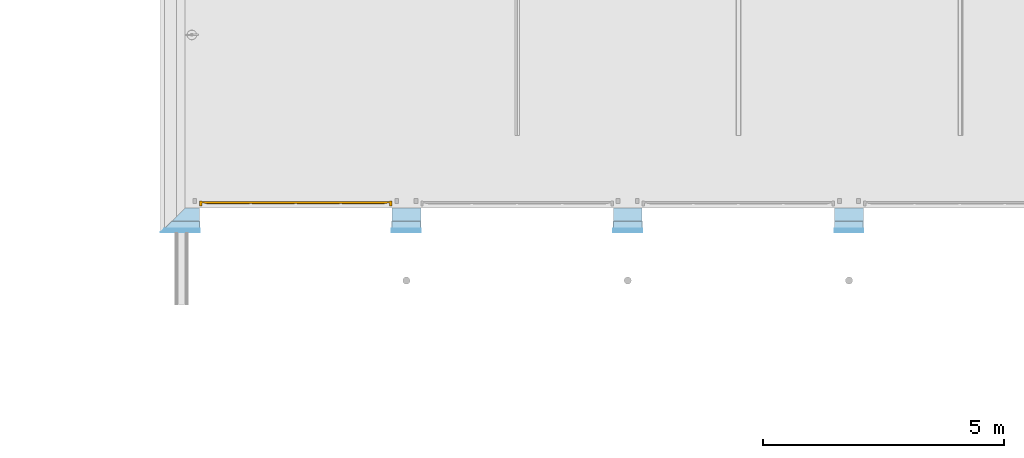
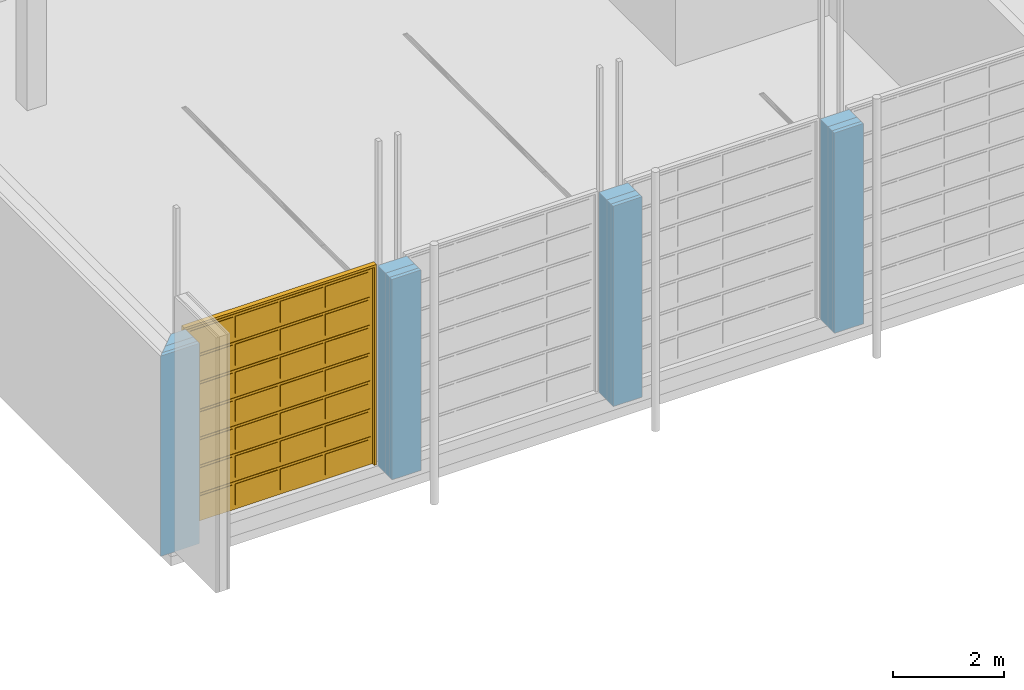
# One storey, part 24 of 112: 1 door, 4 openings, 1 element without a shape of its own, plus 3 elements that do not belong to this part.
"""IFC2X3 building model written with IfcOpenShell, lengths in millimetres."""

from ifc_helpers import new_model, entity, si_unit, converted_unit, derived_unit, money_unit, direction, frame, origin_with_axes, origin_2d_with_axis, place, context, subcontext, project, spatial, polyline, rectangle, outline, extrude, faceted_brep, source, transform, mapped, material, type_object, element, fill, aggregate, save


model = new_model("IFC2X3")

# Units and contexts
model_context = context("Model", 3, precision=0.01, world=origin_with_axes(), true_north=direction((0.0, 1.0)))
body_context = subcontext(model_context, "Body", "Model", "MODEL_VIEW")
ifc_project = project(units=[si_unit("LENGTHUNIT", "METRE", prefix="MILLI"), si_unit("AREAUNIT", "SQUARE_METRE"), si_unit("VOLUMEUNIT", "CUBIC_METRE"), converted_unit("PLANEANGLEUNIT", "DEGREE", entity("IfcPlaneAngleMeasure", 0.0174532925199), si_unit("PLANEANGLEUNIT", "RADIAN"), dimensions=[0, 0, 0, 0, 0, 0, 0]), si_unit("SOLIDANGLEUNIT", "STERADIAN"), money_unit("EUR"), converted_unit("TIMEUNIT", "Year", entity("IfcTimeMeasure", 31556926.0), si_unit("TIMEUNIT", "SECOND"), dimensions=[0, 0, 1, 0, 0, 0, 0]), si_unit("MASSUNIT", "GRAM", prefix="KILO"), si_unit("THERMODYNAMICTEMPERATUREUNIT", "DEGREE_CELSIUS"), si_unit("LUMINOUSINTENSITYUNIT", "LUMEN"), si_unit("ENERGYUNIT", "JOULE", prefix="MEGA"), derived_unit("THERMALCONDUCTANCEUNIT", [(si_unit("POWERUNIT", "WATT"), 1), (si_unit("LENGTHUNIT", "METRE"), -1), (si_unit("THERMODYNAMICTEMPERATUREUNIT", "KELVIN"), -1)]), derived_unit("SPECIFICHEATCAPACITYUNIT", [(si_unit("ENERGYUNIT", "JOULE"), 1), (si_unit("MASSUNIT", "GRAM", prefix="KILO"), -1), (si_unit("THERMODYNAMICTEMPERATUREUNIT", "KELVIN"), -1)]), derived_unit("MASSDENSITYUNIT", [(si_unit("MASSUNIT", "GRAM", prefix="KILO"), 1), (si_unit("VOLUMEUNIT", "CUBIC_METRE"), -1)])], contexts=[model_context])

# Site, building, storey
site_placement = place(None, origin_with_axes())
site = spatial("IfcSite", under=ifc_project, at=site_placement, Name="Politse- ja Piirivalveameti ning Päästeameti ühishoone", CompositionType="ELEMENT")
building_placement = place(site_placement, origin_with_axes())
building = spatial("IfcBuilding", under=site, at=building_placement, Name="Politse- ja Piirivalveameti ning Päästeameti ühishoone", CompositionType="ELEMENT")
storey_placement = place(building_placement, origin_with_axes())
storey = spatial("IfcBuildingStorey", under=building, at=storey_placement, Name="Esimene korrus", CompositionType="ELEMENT", Elevation=0.0)

# Door
door_style = type_object("IfcDoorStyle", Name="Vertical Sliding Garage Door 23", ConstructionType="NOTDEFINED", OperationType="ROLLINGUP", ParameterTakesPrecedence=False, Sizeable=False)
shared_shape = source(origin_with_axes(), body_context, "Body", "Brep", [
    faceted_brep([(-2000.0, 0.0, 0.0), (-1950.0, 0.0, 0.0), (-1950.0, -100.0, 0.0), (-2000.0, -100.0, 0.0), (-2000.0, 0.0, 4350.0), (-1950.0, 0.0, 4350.0), (-1950.0, -100.0, 4350.0), (-2000.0, -100.0, 4350.0)], [[[0, 1, 2, 3]], [[0, 4, 5, 1]], [[1, 5, 6, 2]], [[3, 2, 6, 7]], [[4, 0, 3, 7]], [[5, 4, 7, 6]]]),
    faceted_brep([(2000.0, 0.0, 0.0), (2000.0, 0.0, 4350.0), (2000.0, -100.0, 4350.0), (2000.0, -100.0, 0.0), (1950.0, 0.0, 0.0), (1950.0, 0.0, 4350.0), (1950.0, -100.0, 4350.0), (1950.0, -100.0, 0.0)], [[[0, 1, 2, 3]], [[0, 4, 5, 1]], [[1, 5, 6, 2]], [[3, 2, 6, 7]], [[4, 0, 3, 7]], [[5, 4, 7, 6]]]),
    faceted_brep([(-2000.0, 0.0, 4400.0), (-2000.0, 0.0, 4350.0), (-2000.0, -100.0, 4350.0), (-2000.0, -100.0, 4400.0), (2000.0, 0.0, 4400.0), (2000.0, 0.0, 4350.0), (1950.0, 0.0, 4350.0), (-1950.0, 0.0, 4350.0), (-1950.0, -100.0, 4350.0), (1950.0, -100.0, 4350.0), (2000.0, -100.0, 4350.0), (2000.0, -100.0, 4400.0)], [[[0, 1, 2, 3]], [[0, 4, 5, 6, 7, 1]], [[1, 7, 8, 2]], [[3, 2, 8, 9, 10, 11]], [[4, 0, 3, 11]], [[5, 4, 11, 10]], [[6, 5, 10, 9]], [[7, 6, 9, 8]]]),
    faceted_brep([(1950.0, -5.5, 0.0), (1950.0, -35.5, 0.0), (-1950.0, -35.5, 0.0), (-1950.0, -5.5, 0.0), (1950.0, -5.5, 4350.0), (1950.0, -35.5, 4350.0), (-1950.0, -35.5, 4350.0), (-1950.0, -5.5, 4350.0)], [[[0, 1, 2, 3]], [[4, 5, 1, 0]], [[1, 5, 6, 2]], [[3, 2, 6, 7]], [[0, 3, 7, 4]], [[7, 6, 5, 4]]]),
    faceted_brep([(-1900.0, -35.5, 50.0), (-1900.0, -35.5, 614.285714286), (1900.0, -35.5, 614.285714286), (1900.0, -35.5, 50.0), (-1900.0, -45.5, 50.0), (-1900.0, -45.5, 614.285714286), (1900.0, -45.5, 614.285714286), (1900.0, -45.5, 50.0)], [[[0, 1, 2, 3]], [[0, 4, 5, 1]], [[1, 5, 6, 2]], [[2, 6, 7, 3]], [[3, 7, 4, 0]], [[7, 6, 5, 4]]]),
    faceted_brep([(962.5, -45.5, 100.0), (962.5, -45.5, 564.285714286), (1850.0, -45.5, 564.285714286), (1850.0, -45.5, 100.0), (962.5, -55.5, 100.0), (962.5, -55.5, 564.285714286), (1850.0, -55.5, 564.285714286), (1850.0, -55.5, 100.0)], [[[0, 1, 2, 3]], [[0, 4, 5, 1]], [[1, 5, 6, 2]], [[2, 6, 7, 3]], [[3, 7, 4, 0]], [[7, 6, 5, 4]]]),
    faceted_brep([(25.0, -45.5, 100.0), (25.0, -45.5, 564.285714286), (912.5, -45.5, 564.285714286), (912.5, -45.5, 100.0), (25.0, -55.5, 100.0), (25.0, -55.5, 564.285714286), (912.5, -55.5, 564.285714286), (912.5, -55.5, 100.0)], [[[0, 1, 2, 3]], [[0, 4, 5, 1]], [[1, 5, 6, 2]], [[2, 6, 7, 3]], [[3, 7, 4, 0]], [[7, 6, 5, 4]]]),
    faceted_brep([(-912.5, -45.5, 100.0), (-912.5, -45.5, 564.285714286), (-25.0, -45.5, 564.285714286), (-25.0, -45.5, 100.0), (-912.5, -55.5, 100.0), (-912.5, -55.5, 564.285714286), (-25.0, -55.5, 564.285714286), (-25.0, -55.5, 100.0)], [[[0, 1, 2, 3]], [[0, 4, 5, 1]], [[1, 5, 6, 2]], [[2, 6, 7, 3]], [[3, 7, 4, 0]], [[7, 6, 5, 4]]]),
    faceted_brep([(-1850.0, -45.5, 100.0), (-1850.0, -45.5, 564.285714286), (-962.5, -45.5, 564.285714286), (-962.5, -45.5, 100.0), (-1850.0, -55.5, 100.0), (-1850.0, -55.5, 564.285714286), (-962.5, -55.5, 564.285714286), (-962.5, -55.5, 100.0)], [[[0, 1, 2, 3]], [[0, 4, 5, 1]], [[1, 5, 6, 2]], [[2, 6, 7, 3]], [[3, 7, 4, 0]], [[7, 6, 5, 4]]]),
    faceted_brep([(-1900.0, -35.5, 664.285714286), (-1900.0, -35.5, 1228.57142857), (1900.0, -35.5, 1228.57142857), (1900.0, -35.5, 664.285714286), (-1900.0, -45.5, 664.285714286), (-1900.0, -45.5, 1228.57142857), (1900.0, -45.5, 1228.57142857), (1900.0, -45.5, 664.285714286)], [[[0, 1, 2, 3]], [[0, 4, 5, 1]], [[1, 5, 6, 2]], [[2, 6, 7, 3]], [[3, 7, 4, 0]], [[7, 6, 5, 4]]]),
    faceted_brep([(962.5, -45.5, 714.285714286), (962.5, -45.5, 1178.57142857), (1850.0, -45.5, 1178.57142857), (1850.0, -45.5, 714.285714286), (962.5, -55.5, 714.285714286), (962.5, -55.5, 1178.57142857), (1850.0, -55.5, 1178.57142857), (1850.0, -55.5, 714.285714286)], [[[0, 1, 2, 3]], [[0, 4, 5, 1]], [[1, 5, 6, 2]], [[2, 6, 7, 3]], [[3, 7, 4, 0]], [[7, 6, 5, 4]]]),
    faceted_brep([(25.0, -45.5, 714.285714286), (25.0, -45.5, 1178.57142857), (912.5, -45.5, 1178.57142857), (912.5, -45.5, 714.285714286), (25.0, -55.5, 714.285714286), (25.0, -55.5, 1178.57142857), (912.5, -55.5, 1178.57142857), (912.5, -55.5, 714.285714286)], [[[0, 1, 2, 3]], [[0, 4, 5, 1]], [[1, 5, 6, 2]], [[2, 6, 7, 3]], [[3, 7, 4, 0]], [[7, 6, 5, 4]]]),
    faceted_brep([(-912.5, -45.5, 714.285714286), (-912.5, -45.5, 1178.57142857), (-25.0, -45.5, 1178.57142857), (-25.0, -45.5, 714.285714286), (-912.5, -55.5, 714.285714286), (-912.5, -55.5, 1178.57142857), (-25.0, -55.5, 1178.57142857), (-25.0, -55.5, 714.285714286)], [[[0, 1, 2, 3]], [[0, 4, 5, 1]], [[1, 5, 6, 2]], [[2, 6, 7, 3]], [[3, 7, 4, 0]], [[7, 6, 5, 4]]]),
    faceted_brep([(-1850.0, -45.5, 714.285714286), (-1850.0, -45.5, 1178.57142857), (-962.5, -45.5, 1178.57142857), (-962.5, -45.5, 714.285714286), (-1850.0, -55.5, 714.285714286), (-1850.0, -55.5, 1178.57142857), (-962.5, -55.5, 1178.57142857), (-962.5, -55.5, 714.285714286)], [[[0, 1, 2, 3]], [[0, 4, 5, 1]], [[1, 5, 6, 2]], [[2, 6, 7, 3]], [[3, 7, 4, 0]], [[7, 6, 5, 4]]]),
    faceted_brep([(-1900.0, -35.5, 1278.57142857), (-1900.0, -35.5, 1842.85714286), (1900.0, -35.5, 1842.85714286), (1900.0, -35.5, 1278.57142857), (-1900.0, -45.5, 1278.57142857), (-1900.0, -45.5, 1842.85714286), (1900.0, -45.5, 1842.85714286), (1900.0, -45.5, 1278.57142857)], [[[0, 1, 2, 3]], [[0, 4, 5, 1]], [[1, 5, 6, 2]], [[2, 6, 7, 3]], [[3, 7, 4, 0]], [[7, 6, 5, 4]]]),
    faceted_brep([(962.5, -45.5, 1328.57142857), (962.5, -45.5, 1792.85714286), (1850.0, -45.5, 1792.85714286), (1850.0, -45.5, 1328.57142857), (962.5, -55.5, 1328.57142857), (962.5, -55.5, 1792.85714286), (1850.0, -55.5, 1792.85714286), (1850.0, -55.5, 1328.57142857)], [[[0, 1, 2, 3]], [[0, 4, 5, 1]], [[1, 5, 6, 2]], [[2, 6, 7, 3]], [[3, 7, 4, 0]], [[7, 6, 5, 4]]]),
    faceted_brep([(25.0, -45.5, 1328.57142857), (25.0, -45.5, 1792.85714286), (912.5, -45.5, 1792.85714286), (912.5, -45.5, 1328.57142857), (25.0, -55.5, 1328.57142857), (25.0, -55.5, 1792.85714286), (912.5, -55.5, 1792.85714286), (912.5, -55.5, 1328.57142857)], [[[0, 1, 2, 3]], [[0, 4, 5, 1]], [[1, 5, 6, 2]], [[2, 6, 7, 3]], [[3, 7, 4, 0]], [[7, 6, 5, 4]]]),
    faceted_brep([(-912.5, -45.5, 1328.57142857), (-912.5, -45.5, 1792.85714286), (-25.0, -45.5, 1792.85714286), (-25.0, -45.5, 1328.57142857), (-912.5, -55.5, 1328.57142857), (-912.5, -55.5, 1792.85714286), (-25.0, -55.5, 1792.85714286), (-25.0, -55.5, 1328.57142857)], [[[0, 1, 2, 3]], [[0, 4, 5, 1]], [[1, 5, 6, 2]], [[2, 6, 7, 3]], [[3, 7, 4, 0]], [[7, 6, 5, 4]]]),
    faceted_brep([(-1850.0, -45.5, 1328.57142857), (-1850.0, -45.5, 1792.85714286), (-962.5, -45.5, 1792.85714286), (-962.5, -45.5, 1328.57142857), (-1850.0, -55.5, 1328.57142857), (-1850.0, -55.5, 1792.85714286), (-962.5, -55.5, 1792.85714286), (-962.5, -55.5, 1328.57142857)], [[[0, 1, 2, 3]], [[0, 4, 5, 1]], [[1, 5, 6, 2]], [[2, 6, 7, 3]], [[3, 7, 4, 0]], [[7, 6, 5, 4]]]),
    faceted_brep([(-1900.0, -35.5, 1892.85714286), (-1900.0, -35.5, 2457.14285714), (1900.0, -35.5, 2457.14285714), (1900.0, -35.5, 1892.85714286), (-1900.0, -45.5, 1892.85714286), (-1900.0, -45.5, 2457.14285714), (1900.0, -45.5, 2457.14285714), (1900.0, -45.5, 1892.85714286)], [[[0, 1, 2, 3]], [[0, 4, 5, 1]], [[1, 5, 6, 2]], [[2, 6, 7, 3]], [[3, 7, 4, 0]], [[7, 6, 5, 4]]]),
    faceted_brep([(962.5, -45.5, 1942.85714286), (962.5, -45.5, 2407.14285714), (1850.0, -45.5, 2407.14285714), (1850.0, -45.5, 1942.85714286), (962.5, -55.5, 1942.85714286), (962.5, -55.5, 2407.14285714), (1850.0, -55.5, 2407.14285714), (1850.0, -55.5, 1942.85714286)], [[[0, 1, 2, 3]], [[0, 4, 5, 1]], [[1, 5, 6, 2]], [[2, 6, 7, 3]], [[3, 7, 4, 0]], [[7, 6, 5, 4]]]),
    faceted_brep([(25.0, -45.5, 1942.85714286), (25.0, -45.5, 2407.14285714), (912.5, -45.5, 2407.14285714), (912.5, -45.5, 1942.85714286), (25.0, -55.5, 1942.85714286), (25.0, -55.5, 2407.14285714), (912.5, -55.5, 2407.14285714), (912.5, -55.5, 1942.85714286)], [[[0, 1, 2, 3]], [[0, 4, 5, 1]], [[1, 5, 6, 2]], [[2, 6, 7, 3]], [[3, 7, 4, 0]], [[7, 6, 5, 4]]]),
    faceted_brep([(-912.5, -45.5, 1942.85714286), (-912.5, -45.5, 2407.14285714), (-25.0, -45.5, 2407.14285714), (-25.0, -45.5, 1942.85714286), (-912.5, -55.5, 1942.85714286), (-912.5, -55.5, 2407.14285714), (-25.0, -55.5, 2407.14285714), (-25.0, -55.5, 1942.85714286)], [[[0, 1, 2, 3]], [[0, 4, 5, 1]], [[1, 5, 6, 2]], [[2, 6, 7, 3]], [[3, 7, 4, 0]], [[7, 6, 5, 4]]]),
    faceted_brep([(-1850.0, -45.5, 1942.85714286), (-1850.0, -45.5, 2407.14285714), (-962.5, -45.5, 2407.14285714), (-962.5, -45.5, 1942.85714286), (-1850.0, -55.5, 1942.85714286), (-1850.0, -55.5, 2407.14285714), (-962.5, -55.5, 2407.14285714), (-962.5, -55.5, 1942.85714286)], [[[0, 1, 2, 3]], [[0, 4, 5, 1]], [[1, 5, 6, 2]], [[2, 6, 7, 3]], [[3, 7, 4, 0]], [[7, 6, 5, 4]]]),
    faceted_brep([(-1900.0, -35.5, 2507.14285714), (-1900.0, -35.5, 3071.42857143), (1900.0, -35.5, 3071.42857143), (1900.0, -35.5, 2507.14285714), (-1900.0, -45.5, 2507.14285714), (-1900.0, -45.5, 3071.42857143), (1900.0, -45.5, 3071.42857143), (1900.0, -45.5, 2507.14285714)], [[[0, 1, 2, 3]], [[0, 4, 5, 1]], [[1, 5, 6, 2]], [[2, 6, 7, 3]], [[3, 7, 4, 0]], [[7, 6, 5, 4]]]),
    faceted_brep([(962.5, -45.5, 2557.14285714), (962.5, -45.5, 3021.42857143), (1850.0, -45.5, 3021.42857143), (1850.0, -45.5, 2557.14285714), (962.5, -55.5, 2557.14285714), (962.5, -55.5, 3021.42857143), (1850.0, -55.5, 3021.42857143), (1850.0, -55.5, 2557.14285714)], [[[0, 1, 2, 3]], [[0, 4, 5, 1]], [[1, 5, 6, 2]], [[2, 6, 7, 3]], [[3, 7, 4, 0]], [[7, 6, 5, 4]]]),
    faceted_brep([(25.0, -45.5, 2557.14285714), (25.0, -45.5, 3021.42857143), (912.5, -45.5, 3021.42857143), (912.5, -45.5, 2557.14285714), (25.0, -55.5, 2557.14285714), (25.0, -55.5, 3021.42857143), (912.5, -55.5, 3021.42857143), (912.5, -55.5, 2557.14285714)], [[[0, 1, 2, 3]], [[0, 4, 5, 1]], [[1, 5, 6, 2]], [[2, 6, 7, 3]], [[3, 7, 4, 0]], [[7, 6, 5, 4]]]),
    faceted_brep([(-912.5, -45.5, 2557.14285714), (-912.5, -45.5, 3021.42857143), (-25.0, -45.5, 3021.42857143), (-25.0, -45.5, 2557.14285714), (-912.5, -55.5, 2557.14285714), (-912.5, -55.5, 3021.42857143), (-25.0, -55.5, 3021.42857143), (-25.0, -55.5, 2557.14285714)], [[[0, 1, 2, 3]], [[0, 4, 5, 1]], [[1, 5, 6, 2]], [[2, 6, 7, 3]], [[3, 7, 4, 0]], [[7, 6, 5, 4]]]),
    faceted_brep([(-1850.0, -45.5, 2557.14285714), (-1850.0, -45.5, 3021.42857143), (-962.5, -45.5, 3021.42857143), (-962.5, -45.5, 2557.14285714), (-1850.0, -55.5, 2557.14285714), (-1850.0, -55.5, 3021.42857143), (-962.5, -55.5, 3021.42857143), (-962.5, -55.5, 2557.14285714)], [[[0, 1, 2, 3]], [[0, 4, 5, 1]], [[1, 5, 6, 2]], [[2, 6, 7, 3]], [[3, 7, 4, 0]], [[7, 6, 5, 4]]]),
    faceted_brep([(-1900.0, -35.5, 3121.42857143), (-1900.0, -35.5, 3685.71428571), (1900.0, -35.5, 3685.71428571), (1900.0, -35.5, 3121.42857143), (-1900.0, -45.5, 3121.42857143), (-1900.0, -45.5, 3685.71428571), (1900.0, -45.5, 3685.71428571), (1900.0, -45.5, 3121.42857143)], [[[0, 1, 2, 3]], [[0, 4, 5, 1]], [[1, 5, 6, 2]], [[2, 6, 7, 3]], [[3, 7, 4, 0]], [[7, 6, 5, 4]]]),
    faceted_brep([(962.5, -45.5, 3171.42857143), (962.5, -45.5, 3635.71428571), (1850.0, -45.5, 3635.71428571), (1850.0, -45.5, 3171.42857143), (962.5, -55.5, 3171.42857143), (962.5, -55.5, 3635.71428571), (1850.0, -55.5, 3635.71428571), (1850.0, -55.5, 3171.42857143)], [[[0, 1, 2, 3]], [[0, 4, 5, 1]], [[1, 5, 6, 2]], [[2, 6, 7, 3]], [[3, 7, 4, 0]], [[7, 6, 5, 4]]]),
    faceted_brep([(25.0, -45.5, 3171.42857143), (25.0, -45.5, 3635.71428571), (912.5, -45.5, 3635.71428571), (912.5, -45.5, 3171.42857143), (25.0, -55.5, 3171.42857143), (25.0, -55.5, 3635.71428571), (912.5, -55.5, 3635.71428571), (912.5, -55.5, 3171.42857143)], [[[0, 1, 2, 3]], [[0, 4, 5, 1]], [[1, 5, 6, 2]], [[2, 6, 7, 3]], [[3, 7, 4, 0]], [[7, 6, 5, 4]]]),
    faceted_brep([(-912.5, -45.5, 3171.42857143), (-912.5, -45.5, 3635.71428571), (-25.0, -45.5, 3635.71428571), (-25.0, -45.5, 3171.42857143), (-912.5, -55.5, 3171.42857143), (-912.5, -55.5, 3635.71428571), (-25.0, -55.5, 3635.71428571), (-25.0, -55.5, 3171.42857143)], [[[0, 1, 2, 3]], [[0, 4, 5, 1]], [[1, 5, 6, 2]], [[2, 6, 7, 3]], [[3, 7, 4, 0]], [[7, 6, 5, 4]]]),
    faceted_brep([(-1850.0, -45.5, 3171.42857143), (-1850.0, -45.5, 3635.71428571), (-962.5, -45.5, 3635.71428571), (-962.5, -45.5, 3171.42857143), (-1850.0, -55.5, 3171.42857143), (-1850.0, -55.5, 3635.71428571), (-962.5, -55.5, 3635.71428571), (-962.5, -55.5, 3171.42857143)], [[[0, 1, 2, 3]], [[0, 4, 5, 1]], [[1, 5, 6, 2]], [[2, 6, 7, 3]], [[3, 7, 4, 0]], [[7, 6, 5, 4]]]),
    faceted_brep([(-1900.0, -35.5, 3735.71428571), (-1900.0, -35.5, 4300.0), (1900.0, -35.5, 4300.0), (1900.0, -35.5, 3735.71428571), (-1900.0, -45.5, 3735.71428571), (-1900.0, -45.5, 4300.0), (1900.0, -45.5, 4300.0), (1900.0, -45.5, 3735.71428571)], [[[0, 1, 2, 3]], [[0, 4, 5, 1]], [[1, 5, 6, 2]], [[2, 6, 7, 3]], [[3, 7, 4, 0]], [[7, 6, 5, 4]]]),
    faceted_brep([(962.5, -45.5, 3785.71428571), (962.5, -45.5, 4250.0), (1850.0, -45.5, 4250.0), (1850.0, -45.5, 3785.71428571), (962.5, -55.5, 3785.71428571), (962.5, -55.5, 4250.0), (1850.0, -55.5, 4250.0), (1850.0, -55.5, 3785.71428571)], [[[0, 1, 2, 3]], [[0, 4, 5, 1]], [[1, 5, 6, 2]], [[2, 6, 7, 3]], [[3, 7, 4, 0]], [[7, 6, 5, 4]]]),
    faceted_brep([(25.0, -45.5, 3785.71428571), (25.0, -45.5, 4250.0), (912.5, -45.5, 4250.0), (912.5, -45.5, 3785.71428571), (25.0, -55.5, 3785.71428571), (25.0, -55.5, 4250.0), (912.5, -55.5, 4250.0), (912.5, -55.5, 3785.71428571)], [[[0, 1, 2, 3]], [[0, 4, 5, 1]], [[1, 5, 6, 2]], [[2, 6, 7, 3]], [[3, 7, 4, 0]], [[7, 6, 5, 4]]]),
    faceted_brep([(-912.5, -45.5, 3785.71428571), (-912.5, -45.5, 4250.0), (-25.0, -45.5, 4250.0), (-25.0, -45.5, 3785.71428571), (-912.5, -55.5, 3785.71428571), (-912.5, -55.5, 4250.0), (-25.0, -55.5, 4250.0), (-25.0, -55.5, 3785.71428571)], [[[0, 1, 2, 3]], [[0, 4, 5, 1]], [[1, 5, 6, 2]], [[2, 6, 7, 3]], [[3, 7, 4, 0]], [[7, 6, 5, 4]]]),
    faceted_brep([(-1850.0, -45.5, 3785.71428571), (-1850.0, -45.5, 4250.0), (-962.5, -45.5, 4250.0), (-962.5, -45.5, 3785.71428571), (-1850.0, -55.5, 3785.71428571), (-1850.0, -55.5, 4250.0), (-962.5, -55.5, 4250.0), (-962.5, -55.5, 3785.71428571)], [[[0, 1, 2, 3]], [[0, 4, 5, 1]], [[1, 5, 6, 2]], [[2, 6, 7, 3]], [[3, 7, 4, 0]], [[7, 6, 5, 4]]]),
])
wall_placement = place(storey_placement, origin_with_axes())
opening_4_placement = place(wall_placement, frame((2299.34846005, 0.0, 0.0), z_axis=(0.0, 0.0, 1.0), x_axis=(1.0, 0.0, 0.0)))
door_placement = place(opening_4_placement, frame((-2000.0, 0.0, 0.0), z_axis=(0.0, 0.0, 1.0), x_axis=(1.0, 0.0, 0.0)))
door = element("IfcDoor", 1, at=door_placement, inside=storey, type_object=door_style, Name="TV-07", ObjectType="DOOR", OverallHeight=4400.0, OverallWidth=4000.0, context=body_context, shape_type="MappedRepresentation", body=[
    mapped(shared_shape, transform((2000.0, 140.0, 0.0))),
])

# Wall, openings
wall_type = type_object("IfcWallType", Name="VS-14_välissein gar uste vahel 510", PredefinedType="NOTDEFINED")
wall = element("IfcWall", 2, at=wall_placement, inside=storey, type_object=wall_type, Name="VS-14")
opening_1_placement = place(wall_placement, frame((6899.66559551, 0.0, 0.0), z_axis=(0.0, 0.0, 1.0), x_axis=(1.0, 0.0, 0.0)))
element("IfcOpeningElement", 3, at=opening_1_placement, cuts=wall, Name="TV-07", context=body_context, shape_type="SweptSolid", body=[
    extrude(rectangle(XDim=4000.0, YDim=4400.0, at=origin_2d_with_axis()), frame((0.0, 40.0, 2200.0), z_axis=(0.0, -1.0, 0.0), x_axis=(-1.0, 0.0, 0.0)), (0.0, 0.0, 1.0), 1060.0),
    extrude(outline(polyline([(-2000.0, 8800.0), (-2000.0, 4400.0), (2000.0, 4400.0), (2000.0, 8800.0), (-2000.0, 8800.0)])), frame((0.0, 135.0, 0.0), z_axis=(0.0, 1.0, 0.0), x_axis=(-1.0, 0.0, 0.0)), (0.0, 0.0, -1.0), 45.0),
    extrude(rectangle(XDim=4000.0, YDim=4400.0, at=origin_2d_with_axis()), frame((0.0, 40.0, 2200.0), z_axis=(0.0, 1.0, 0.0), x_axis=(-1.0, 0.0, 0.0)), (0.0, 0.0, 1.0), 550.0),
])
opening_2_placement = place(wall_placement, frame((11499.3611204, 0.0, 0.0), z_axis=(0.0, 0.0, 1.0), x_axis=(1.0, 0.0, 0.0)))
element("IfcOpeningElement", 4, at=opening_2_placement, cuts=wall, Name="TV-07", context=body_context, shape_type="SweptSolid", body=[
    extrude(rectangle(XDim=4000.0, YDim=4400.0, at=origin_2d_with_axis()), frame((0.0, 40.0, 2200.0), z_axis=(0.0, 1.0, 0.0), x_axis=(1.0, 0.0, 0.0)), (0.0, 0.0, -1.0), 1060.0),
    extrude(outline(polyline([(-2000.0, 8800.0), (-2000.0, 4400.0), (2000.0, 4400.0), (2000.0, 8800.0), (-2000.0, 8800.0)])), frame((0.0, 135.0, 0.0), z_axis=(0.0, -1.0, 0.0), x_axis=(1.0, 0.0, 0.0)), (0.0, 0.0, 1.0), 45.0),
    extrude(rectangle(XDim=4000.0, YDim=4400.0, at=origin_2d_with_axis()), frame((0.0, 40.0, 2200.0), z_axis=(0.0, -1.0, 0.0), x_axis=(1.0, 0.0, 0.0)), (0.0, 0.0, -1.0), 550.0),
])
opening_3_placement = place(wall_placement, frame((16099.6782559, 0.0, 0.0), z_axis=(0.0, 0.0, 1.0), x_axis=(1.0, 0.0, 0.0)))
element("IfcOpeningElement", 5, at=opening_3_placement, cuts=wall, Name="TV-07", context=body_context, shape_type="SweptSolid", body=[
    extrude(rectangle(XDim=4000.0, YDim=4400.0, at=origin_2d_with_axis()), frame((0.0, 40.0, 2200.0), z_axis=(0.0, -1.0, 0.0), x_axis=(-1.0, 0.0, 0.0)), (0.0, 0.0, 1.0), 1060.0),
    extrude(outline(polyline([(-2000.0, 8800.0), (-2000.0, 4400.0), (2000.0, 4400.0), (2000.0, 8800.0), (-2000.0, 8800.0)])), frame((0.0, 135.0, 0.0), z_axis=(0.0, 1.0, 0.0), x_axis=(-1.0, 0.0, 0.0)), (0.0, 0.0, -1.0), 45.0),
    extrude(rectangle(XDim=4000.0, YDim=4400.0, at=origin_2d_with_axis()), frame((0.0, 40.0, 2200.0), z_axis=(0.0, 1.0, 0.0), x_axis=(-1.0, 0.0, 0.0)), (0.0, 0.0, 1.0), 550.0),
])
opening_4 = element("IfcOpeningElement", 6, at=opening_4_placement, cuts=wall, Name="TV-07", context=body_context, shape_type="SweptSolid", body=[
    extrude(rectangle(XDim=4000.0, YDim=4400.0, at=origin_2d_with_axis()), frame((0.0, 40.0, 2200.0), z_axis=(0.0, 1.0, 0.0), x_axis=(1.0, 0.0, 0.0)), (0.0, 0.0, -1.0), 1060.0),
    extrude(outline(polyline([(-2000.0, 8800.0), (-2000.0, 4400.0), (2000.0, 4400.0), (2000.0, 8800.0), (-2000.0, 8800.0)])), frame((0.0, 135.0, 0.0), z_axis=(0.0, -1.0, 0.0), x_axis=(1.0, 0.0, 0.0)), (0.0, 0.0, 1.0), 45.0),
    extrude(rectangle(XDim=4000.0, YDim=4400.0, at=origin_2d_with_axis()), frame((0.0, 40.0, 2200.0), z_axis=(0.0, -1.0, 0.0), x_axis=(1.0, 0.0, 0.0)), (0.0, 0.0, -1.0), 550.0),
])

fill(opening_4, door)

# Building element part
ifc_material_1 = material(Name="KON-04_Betoon - Konstuktsioon")
building_element_part_1_placement = place(wall_placement, origin_with_axes())
building_element_part_1 = element("IfcBuildingElementPart", 7, at=building_element_part_1_placement, material=ifc_material_1, Name="KON-04_Betoon - Konstuktsioon", context=body_context, shape_type="SweptSolid", body=[
    extrude(outline(polyline([(-280.0, -280.0), (18099.6782559, -280.0), (18099.6782559, 0.0), (0.0, 0.0), (-280.0, -280.0)])), origin_with_axes(), (0.0, 0.0, 1.0), 4400.0),
])

ifc_material_2 = material(Name="SOJ-06_Soojustus - Plastik Kõva")
building_element_part_2_placement = place(wall_placement, origin_with_axes())
building_element_part_2 = element("IfcBuildingElementPart", 8, at=building_element_part_2_placement, material=ifc_material_2, Name="SOJ-06_Soojustus - Plastik Kõva", context=body_context, shape_type="SweptSolid", body=[
    extrude(outline(polyline([(-430.0, -430.0), (18099.6782559, -430.0), (18099.6782559, -280.0), (-280.0, -280.0), (-430.0, -430.0)])), origin_with_axes(), (0.0, 0.0, 1.0), 4400.0),
])

building_element_part_3_placement = place(wall_placement, origin_with_axes())
building_element_part_3 = element("IfcBuildingElementPart", 9, at=building_element_part_3_placement, material=ifc_material_1, Name="KON-04_Betoon - Konstuktsioon", context=body_context, shape_type="SweptSolid", body=[
    extrude(outline(polyline([(-510.0, -510.0), (18099.6782559, -510.0), (18099.6782559, -430.0), (-430.0, -430.0), (-510.0, -510.0)])), origin_with_axes(), (0.0, 0.0, 1.0), 4400.0),
])

aggregate(wall, [building_element_part_1, building_element_part_2, building_element_part_3])

save(model, "model.ifc")
